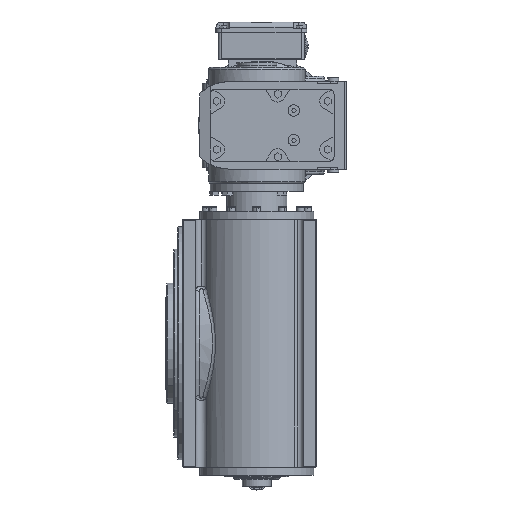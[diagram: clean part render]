
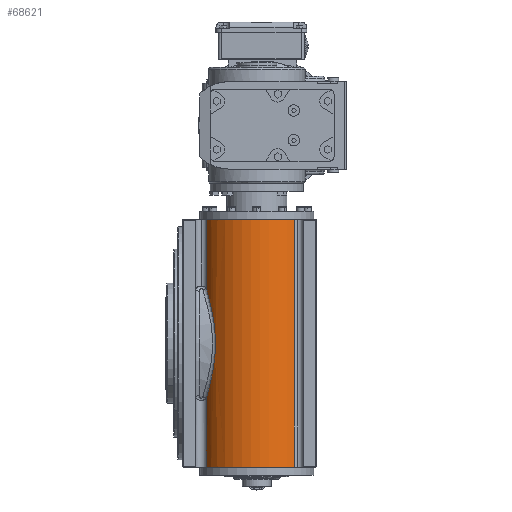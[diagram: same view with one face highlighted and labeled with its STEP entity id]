
A CAD part, left-side view. The second image highlights one B-rep face of the part: STEP entity #68621.
In plain terms, the highlighted cylindrical face has radius 71 mm (diameter 142 mm), a partial arc.
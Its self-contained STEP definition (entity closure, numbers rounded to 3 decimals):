
#1240 = VERTEX_POINT ( 'NONE', #82130 ) ;
#1461 = VERTEX_POINT ( 'NONE', #43114 ) ;
#1505 = CARTESIAN_POINT ( 'NONE',  ( -144.04, 125.343, -6.17 ) ) ;
#1930 = CARTESIAN_POINT ( 'NONE',  ( -144.049, 125.334, 2.839 ) ) ;
#2365 = CARTESIAN_POINT ( 'NONE',  ( -143.692, 125.681, -12.164 ) ) ;
#3604 = VERTEX_POINT ( 'NONE', #73416 ) ;
#4021 = CIRCLE ( 'NONE', #26914, 71. ) ;
#4651 = EDGE_CURVE ( 'NONE', #3604, #1240, #6395, .T. ) ;
#5076 = EDGE_CURVE ( 'NONE', #70384, #1461, #42305, .T. ) ;
#5265 = ORIENTED_EDGE ( 'NONE', *, *, #5076, .T. ) ;
#6395 = B_SPLINE_CURVE_WITH_KNOTS ( 'NONE', 3,
 ( #8182, #56519, #29215, #36408, #83865, #63713, #70843, #35519, #30112, #57413, #77159, #23403, #62819, #56986, #16680, #42642, #1930, #1505, #2365, #15822, #64605, #43092, #43523, #37289, #84318, #36851, #70414, #22969, #64167, #71274 ),
 .UNSPECIFIED., .F., .F.,
 ( 4, 2, 2, 2, 2, 2, 2, 2, 2, 2, 2, 2, 2, 2, 4 ),
 ( 0., 0.018, 0.023, 0.027, 0.036, 0.055, 0.059, 0.064, 0.073, 0.091, 0.095, 0.1, 0.109, 0.127, 0.145 ),
 .UNSPECIFIED. ) ;
#8182 = CARTESIAN_POINT ( 'NONE',  ( -128.109, 136.808, 68.859 ) ) ;
#14850 = EDGE_CURVE ( 'NONE', #85702, #70384, #53777, .T. ) ;
#15822 = CARTESIAN_POINT ( 'NONE',  ( -142.826, 126.476, -19.641 ) ) ;
#16680 = CARTESIAN_POINT ( 'NONE',  ( -143.713, 125.653, 10.36 ) ) ;
#17523 = CARTESIAN_POINT ( 'NONE',  ( -128.109, 136.808, -500000. ) ) ;
#19411 = DIRECTION ( 'NONE',  ( 0., 0., 1. ) ) ;
#19729 = VECTOR ( 'NONE', #56756, 1000. ) ;
#21908 = AXIS2_PLACEMENT_3D ( 'NONE', #40415, #19411, #41316 ) ;
#22747 = LINE ( 'NONE', #57628, #19729 ) ;
#22969 = CARTESIAN_POINT ( 'NONE',  ( -132.999, 134.023, -58.167 ) ) ;
#23403 = CARTESIAN_POINT ( 'NONE',  ( -143.2, 126.132, 16.387 ) ) ;
#26260 = VERTEX_POINT ( 'NONE', #73148 ) ;
#26914 = AXIS2_PLACEMENT_3D ( 'NONE', #71163, #42508, #78318 ) ;
#28281 = ORIENTED_EDGE ( 'NONE', *, *, #4651, .T. ) ;
#29215 = CARTESIAN_POINT ( 'NONE',  ( -133.018, 134.012, 58.125 ) ) ;
#30112 = CARTESIAN_POINT ( 'NONE',  ( -139.32, 129.475, 38.415 ) ) ;
#30315 = CARTESIAN_POINT ( 'NONE',  ( -128.109, 136.808, -154. ) ) ;
#30957 = VECTOR ( 'NONE', #46070, 1000. ) ;
#32624 = EDGE_CURVE ( 'NONE', #3604, #26260, #59132, .T. ) ;
#35519 = CARTESIAN_POINT ( 'NONE',  ( -138.57, 130.069, 41.275 ) ) ;
#36408 = CARTESIAN_POINT ( 'NONE',  ( -135.5, 132.319, 51.157 ) ) ;
#36851 = CARTESIAN_POINT ( 'NONE',  ( -138.584, 130.076, -41.542 ) ) ;
#37289 = CARTESIAN_POINT ( 'NONE',  ( -141.192, 127.924, -30.015 ) ) ;
#38137 = ORIENTED_EDGE ( 'NONE', *, *, #43041, .F. ) ;
#38229 = FACE_OUTER_BOUND ( 'NONE', #41400, .T. ) ;
#40350 = ORIENTED_EDGE ( 'NONE', *, *, #32624, .F. ) ;
#40415 = CARTESIAN_POINT ( 'NONE',  ( -95., 74., -154. ) ) ;
#41316 = DIRECTION ( 'NONE',  ( 1., 0., 0. ) ) ;
#41400 = EDGE_LOOP ( 'NONE', ( #40350, #28281, #43867, #53685, #5265, #38137 ) ) ;
#41872 = CARTESIAN_POINT ( 'NONE',  ( -148.721, 27.577, -154. ) ) ;
#42305 = LINE ( 'NONE', #41872, #30957 ) ;
#42508 = DIRECTION ( 'NONE',  ( 0., 0., 1. ) ) ;
#42642 = CARTESIAN_POINT ( 'NONE',  ( -143.967, 125.413, 5.846 ) ) ;
#43041 = EDGE_CURVE ( 'NONE', #26260, #1461, #4021, .T. ) ;
#43092 = CARTESIAN_POINT ( 'NONE',  ( -142.199, 127.041, -24.119 ) ) ;
#43114 = CARTESIAN_POINT ( 'NONE',  ( -148.721, 27.577, 154. ) ) ;
#43523 = CARTESIAN_POINT ( 'NONE',  ( -141.962, 127.251, -25.6 ) ) ;
#43867 = ORIENTED_EDGE ( 'NONE', *, *, #71905, .T. ) ;
#46070 = DIRECTION ( 'NONE',  ( 0., 0., 1. ) ) ;
#46284 = CYLINDRICAL_SURFACE ( 'NONE', #21908, 71. ) ;
#48601 = DIRECTION ( 'NONE',  ( 1., 0., 0. ) ) ;
#53311 = DIRECTION ( 'NONE',  ( 0., 0., 1. ) ) ;
#53685 = ORIENTED_EDGE ( 'NONE', *, *, #14850, .T. ) ;
#53777 = CIRCLE ( 'NONE', #63794, 71. ) ;
#56519 = CARTESIAN_POINT ( 'NONE',  ( -130.725, 135.429, 63.555 ) ) ;
#56756 = DIRECTION ( 'NONE',  ( 0., 0., -1. ) ) ;
#56986 = CARTESIAN_POINT ( 'NONE',  ( -143.607, 125.753, 11.865 ) ) ;
#57413 = CARTESIAN_POINT ( 'NONE',  ( -141.327, 127.831, 29.758 ) ) ;
#57628 = CARTESIAN_POINT ( 'NONE',  ( -128.109, 136.808, 500000. ) ) ;
#58883 = CARTESIAN_POINT ( 'NONE',  ( -148.721, 27.577, -154. ) ) ;
#59132 = LINE ( 'NONE', #17523, #59823 ) ;
#59823 = VECTOR ( 'NONE', #53311, 1000. ) ;
#62819 = CARTESIAN_POINT ( 'NONE',  ( -143.351, 125.993, 14.878 ) ) ;
#63713 = CARTESIAN_POINT ( 'NONE',  ( -136.889, 131.329, 46.942 ) ) ;
#63794 = AXIS2_PLACEMENT_3D ( 'NONE', #69589, #77223, #48601 ) ;
#64167 = CARTESIAN_POINT ( 'NONE',  ( -130.722, 135.43, -63.561 ) ) ;
#64605 = CARTESIAN_POINT ( 'NONE',  ( -142.631, 126.653, -21.138 ) ) ;
#68621 = ADVANCED_FACE ( 'NONE', ( #38229 ), #46284, .T. ) ;
#69589 = CARTESIAN_POINT ( 'NONE',  ( -95., 74., -154. ) ) ;
#70384 = VERTEX_POINT ( 'NONE', #58883 ) ;
#70414 = CARTESIAN_POINT ( 'NONE',  ( -136.93, 131.346, -47.157 ) ) ;
#70843 = CARTESIAN_POINT ( 'NONE',  ( -137.325, 131.008, 45.529 ) ) ;
#71163 = CARTESIAN_POINT ( 'NONE',  ( -95., 74., 154. ) ) ;
#71274 = CARTESIAN_POINT ( 'NONE',  ( -128.109, 136.808, -68.859 ) ) ;
#71905 = EDGE_CURVE ( 'NONE', #1240, #85702, #22747, .T. ) ;
#73148 = CARTESIAN_POINT ( 'NONE',  ( -128.109, 136.808, 154. ) ) ;
#73416 = CARTESIAN_POINT ( 'NONE',  ( -128.109, 136.808, 68.859 ) ) ;
#77159 = CARTESIAN_POINT ( 'NONE',  ( -142.345, 126.918, 23.884 ) ) ;
#77223 = DIRECTION ( 'NONE',  ( 0., 0., 1. ) ) ;
#78318 = DIRECTION ( 'NONE',  ( 1., 0., 0. ) ) ;
#82130 = CARTESIAN_POINT ( 'NONE',  ( -128.109, 136.808, -68.859 ) ) ;
#83865 = CARTESIAN_POINT ( 'NONE',  ( -135.977, 131.984, 49.755 ) ) ;
#84318 = CARTESIAN_POINT ( 'NONE',  ( -140.598, 128.429, -32.922 ) ) ;
#85702 = VERTEX_POINT ( 'NONE', #30315 ) ;
